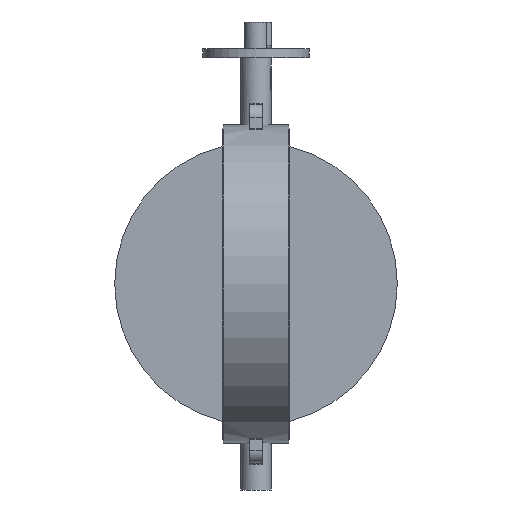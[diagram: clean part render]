
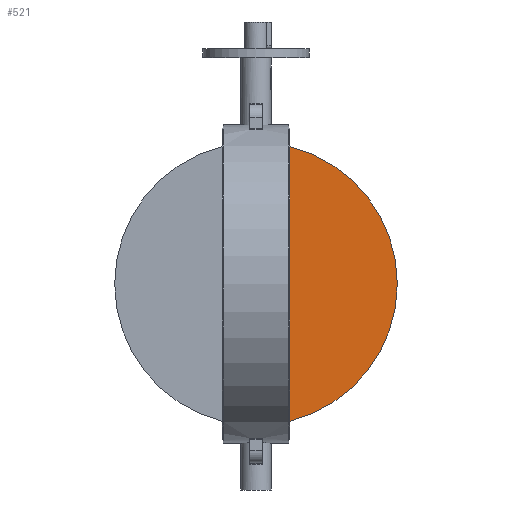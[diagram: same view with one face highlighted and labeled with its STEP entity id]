
A CAD part, front view. The second image highlights one B-rep face of the part: STEP entity #521.
In plain terms, the highlighted planar face has unit normal (0, -1, 0).
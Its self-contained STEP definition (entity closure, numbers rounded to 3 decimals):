
#521=ADVANCED_FACE('',(#1332),#1334,.T.);
#1332=FACE_BOUND('',#1333,.T.);
#1333=EDGE_LOOP('',(#1926,#1927));
#1334=PLANE('',#1335);
#1335=AXIS2_PLACEMENT_3D('',#1336,#1337,#1338);
#1336=CARTESIAN_POINT('',(0.,-10.,0.));
#1337=DIRECTION('',(0.,-1.,0.));
#1338=DIRECTION('',(0.,0.,1.));
#1926=ORIENTED_EDGE('',*,*,#2188,.T.);
#1927=ORIENTED_EDGE('',*,*,#2227,.T.);
#2188=EDGE_CURVE('',#2484,#2481,#2485,.T.);
#2227=EDGE_CURVE('',#2481,#2484,#2542,.T.);
#2481=VERTEX_POINT('',#3763);
#2484=VERTEX_POINT('',#3808);
#2485=LINE('',#3809,#3810);
#2542=CIRCLE('',#4078,397.7);
#3763=CARTESIAN_POINT('',(30.923,-10.,-396.496));
#3808=CARTESIAN_POINT('',(30.923,-10.,396.496));
#3809=CARTESIAN_POINT('',(30.923,-10.,396.496));
#3810=VECTOR('',#3811,1.);
#3811=DIRECTION('',(0.,0.,-1.));
#4078=AXIS2_PLACEMENT_3D('',#4079,#4080,#4081);
#4079=CARTESIAN_POINT('',(0.,-10.,0.));
#4080=DIRECTION('',(0.,-1.,0.));
#4081=DIRECTION('',(0.078,0.,-0.997));
